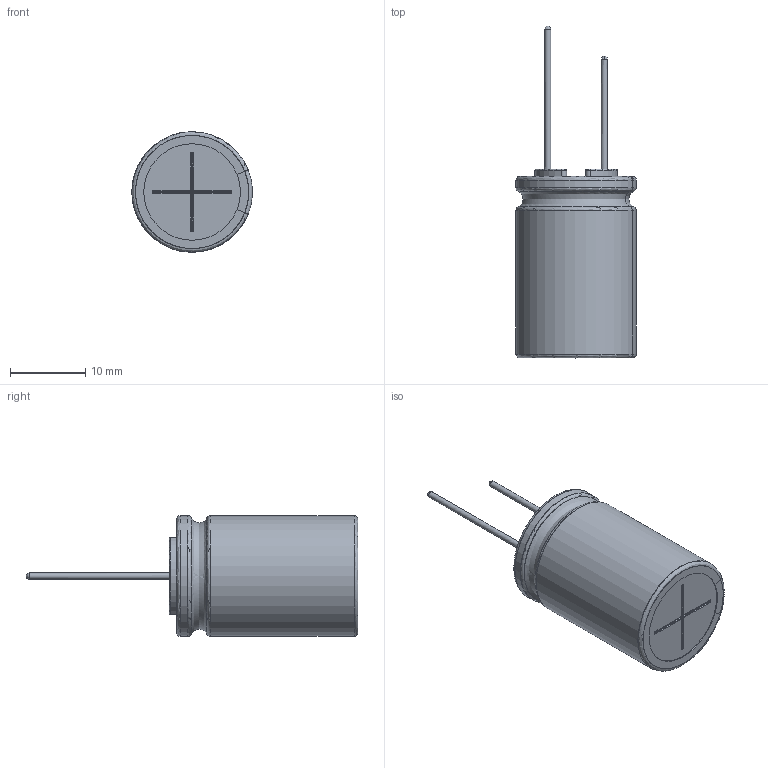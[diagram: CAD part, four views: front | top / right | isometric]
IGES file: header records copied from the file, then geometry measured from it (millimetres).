
Start section: JAMA-IS VERSION  1.0
Bounding box: 15.98 x 44 x 16 mm (x, y, z)
Surface area: 4450.9 mm2 (no closed solid volume)
Topology: 0 solids, 0 shells, 132 faces, 1511 edges, 1492 vertices
Faces by surface type: bspline 132
